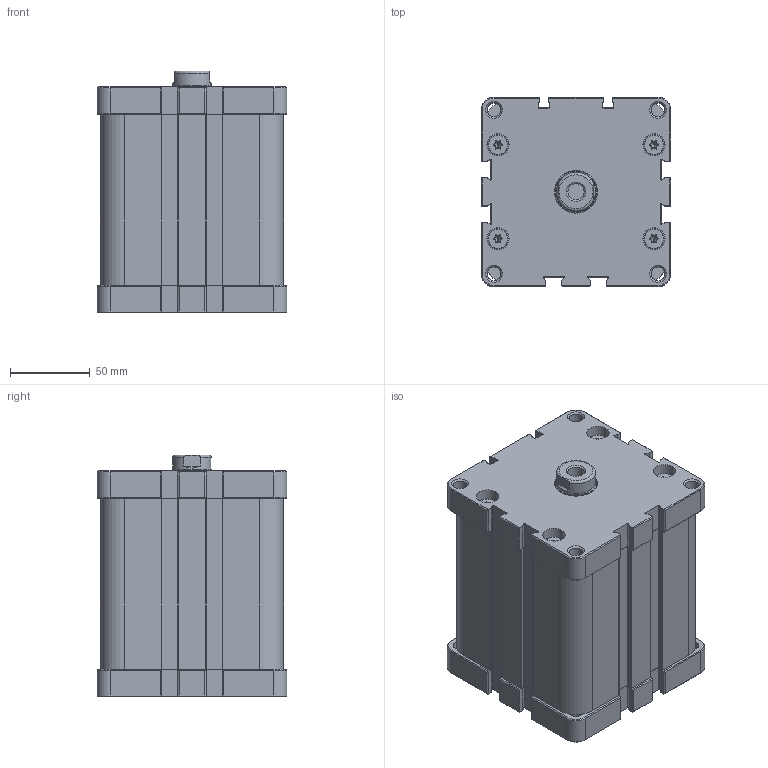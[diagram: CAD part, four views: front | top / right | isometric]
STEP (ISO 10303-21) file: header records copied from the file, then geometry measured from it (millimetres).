
FILE_DESCRIPTION (( 'STEP AP214' ), '1' );
FILE_NAME ('25_13459.STEP', '2017-01-05T09:51:33', ( '' ), ( '' ), 'SwSTEP 2.0', 'SolidWorks 2016', '' );
FILE_SCHEMA (( 'AUTOMOTIVE_DESIGN' ));
Length unit declared in the file: millimetre
Products named in the file (1): 25_13459
Bounding box: 119 x 119 x 152 mm (x, y, z)
Volume: 1733823.2 mm3; surface area: 208974 mm2
Topology: 13 solids, 14 shells, 727 faces, 1859 edges, 1171 vertices
Faces by surface type: plane 334, cylinder 263, cone 70, torus 44, bspline 16
Entity records: 30548 total; most frequent: CARTESIAN_POINT 4648, DIRECTION 3809, ORIENTED_EDGE 3682, EDGE_CURVE 1841, AXIS2_PLACEMENT_3D 1408, VERTEX_POINT 1171, LINE 993, VECTOR 993
